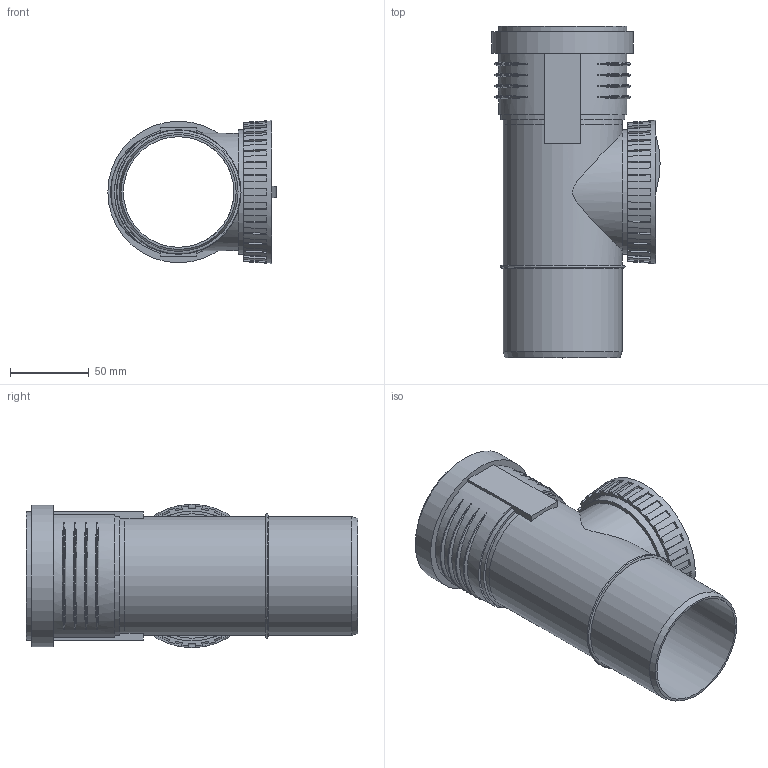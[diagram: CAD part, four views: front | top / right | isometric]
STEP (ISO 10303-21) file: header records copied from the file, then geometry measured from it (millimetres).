
FILE_DESCRIPTION(/* description */ (''),/* implementation_level */ '2;1');
FILE_NAME(/* name */ 'Z:\Geberit\Export\NewStep\390327.stp',/* time_stamp */ '2014-04-02T08:11:43+02:00',/* author */ ('ML'),/* organization */ (''),/* preprocessor_version */ 'ST-DEVELOPER v15.2',/* originating_system */ 'Autodesk Inventor 2014',/* authorisation */ '');
FILE_SCHEMA (('AUTOMOTIVE_DESIGN { 1 0 10303 214 3 1 1 }'));
Length unit declared in the file: millimetre
Products named in the file (4): 861480; 861402; 861484; 390327
Bounding box: 106.52 x 210 x 90.7 mm (x, y, z)
Volume: 197835.8 mm3; surface area: 147503.5 mm2
Topology: 3 solids, 3 shells, 217 faces, 587 edges, 393 vertices
Faces by surface type: plane 158, torus 27, cylinder 22, cone 10
Full cylindrical faces by diameter (mm): 69.5 x1, 70 x1, 70.2 x1, 75.2 x3, 76.2 x2, 78.77 x1, 81.2 x1, 84.6 x1, 89.6 x1
Entity records: 7757 total; most frequent: CARTESIAN_POINT 2259, ORIENTED_EDGE 1130, DIRECTION 1022, EDGE_CURVE 563, VERTEX_POINT 390, AXIS2_PLACEMENT_3D 361, LINE 300, VECTOR 300
